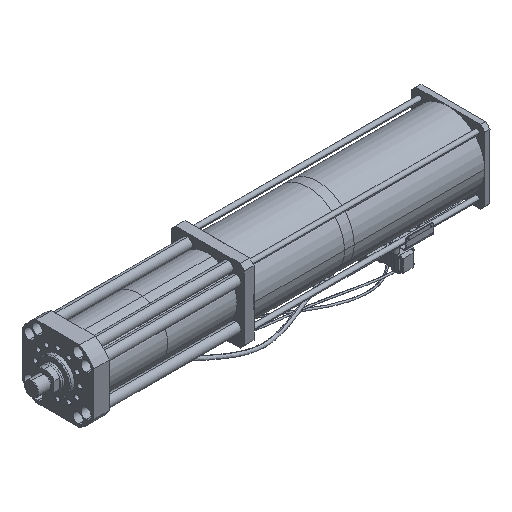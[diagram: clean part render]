
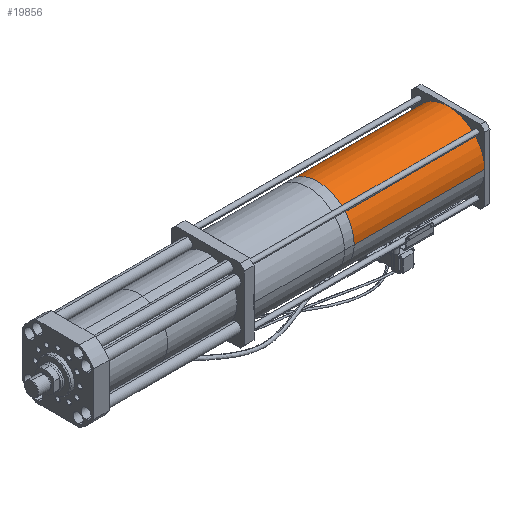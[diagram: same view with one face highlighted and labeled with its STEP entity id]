
A CAD part, isometric view. The second image highlights one B-rep face of the part: STEP entity #19856.
In plain terms, the highlighted cylindrical face has radius 165 mm (diameter 330 mm), a partial arc.
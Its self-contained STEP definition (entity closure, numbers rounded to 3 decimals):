
#1032 = FACE_OUTER_BOUND ( 'NONE', #67693, .T. ) ;
#4753 = CARTESIAN_POINT ( 'NONE',  ( 1889.819, 272.061, 656.991 ) ) ;
#5126 = ORIENTED_EDGE ( 'NONE', *, *, #12677, .F. ) ;
#5630 = ORIENTED_EDGE ( 'NONE', *, *, #60382, .T. ) ;
#6158 = AXIS2_PLACEMENT_3D ( 'NONE', #30584, #8416, #51775 ) ;
#8014 = CARTESIAN_POINT ( 'NONE',  ( 1889.819, 602.061, 656.991 ) ) ;
#8416 = DIRECTION ( 'NONE',  ( 1., 0., 0. ) ) ;
#9807 = LINE ( 'NONE', #4753, #20226 ) ;
#11085 = CARTESIAN_POINT ( 'NONE',  ( 1889.819, 602.061, 656.991 ) ) ;
#12677 = EDGE_CURVE ( 'NONE', #42748, #35761, #37213, .T. ) ;
#16463 = CIRCLE ( 'NONE', #6158, 165. ) ;
#16977 = ORIENTED_EDGE ( 'NONE', *, *, #67708, .T. ) ;
#17682 = CARTESIAN_POINT ( 'NONE',  ( 1889.819, 437.061, 656.991 ) ) ;
#18108 = DIRECTION ( 'NONE',  ( -1., 0., 0. ) ) ;
#19856 = ADVANCED_FACE ( 'NONE', ( #1032 ), #28915, .T. ) ;
#20226 = VECTOR ( 'NONE', #47757, 1000. ) ;
#23036 = CARTESIAN_POINT ( 'NONE',  ( 1299.819, 272.061, 656.991 ) ) ;
#23405 = LINE ( 'NONE', #8014, #70099 ) ;
#28915 = CYLINDRICAL_SURFACE ( 'NONE', #50555, 165. ) ;
#30584 = CARTESIAN_POINT ( 'NONE',  ( 1299.819, 437.061, 656.991 ) ) ;
#30977 = ORIENTED_EDGE ( 'NONE', *, *, #50814, .F. ) ;
#32715 = VERTEX_POINT ( 'NONE', #23036 ) ;
#35761 = VERTEX_POINT ( 'NONE', #56924 ) ;
#36078 = AXIS2_PLACEMENT_3D ( 'NONE', #17682, #44196, #55932 ) ;
#37213 = CIRCLE ( 'NONE', #36078, 165. ) ;
#42748 = VERTEX_POINT ( 'NONE', #11085 ) ;
#44196 = DIRECTION ( 'NONE',  ( 1., 0., 0. ) ) ;
#47171 = CARTESIAN_POINT ( 'NONE',  ( 1889.819, 437.061, 656.991 ) ) ;
#47757 = DIRECTION ( 'NONE',  ( -1., 0., 0. ) ) ;
#50276 = VERTEX_POINT ( 'NONE', #61443 ) ;
#50555 = AXIS2_PLACEMENT_3D ( 'NONE', #47171, #58968, #64323 ) ;
#50814 = EDGE_CURVE ( 'NONE', #35761, #32715, #9807, .T. ) ;
#51775 = DIRECTION ( 'NONE',  ( 0., 1., 0. ) ) ;
#55932 = DIRECTION ( 'NONE',  ( 0., 1., 0. ) ) ;
#56924 = CARTESIAN_POINT ( 'NONE',  ( 1889.819, 272.061, 656.991 ) ) ;
#58968 = DIRECTION ( 'NONE',  ( -1., 0., 0. ) ) ;
#60382 = EDGE_CURVE ( 'NONE', #42748, #50276, #23405, .T. ) ;
#61443 = CARTESIAN_POINT ( 'NONE',  ( 1299.819, 602.061, 656.991 ) ) ;
#64323 = DIRECTION ( 'NONE',  ( 0., -1., 0. ) ) ;
#67693 = EDGE_LOOP ( 'NONE', ( #5126, #5630, #16977, #30977 ) ) ;
#67708 = EDGE_CURVE ( 'NONE', #50276, #32715, #16463, .T. ) ;
#70099 = VECTOR ( 'NONE', #18108, 1000. ) ;
